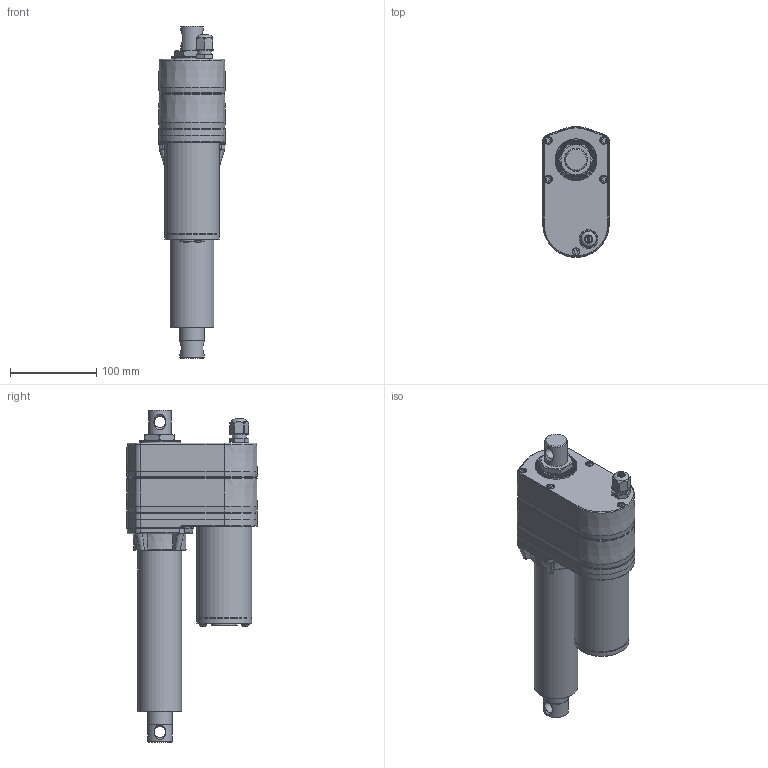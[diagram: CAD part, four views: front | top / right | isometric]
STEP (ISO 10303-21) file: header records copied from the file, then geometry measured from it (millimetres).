
FILE_DESCRIPTION (( 'STEP AP203' ), '1' );
FILE_NAME ('ID10II-A-With LT or LT+POT-102.STEP', '2014-06-10T00:53:57', ( '' ), ( '' ), 'SwSTEP 2.0', 'SolidWorks 2013', '' );
FILE_SCHEMA (( 'CONFIG_CONTROL_DESIGN' ));
Length unit declared in the file: millimetre
Products named in the file (3): ID10II-A-With LT or LT+POT-102-1; ID10II-A-With LT or LT+POT-102-2; ID10II-A-With LT or LT+POT-102
Assembly tree (2 placements, depth 2):
  ID10II-A-With LT or LT+POT-102
    ID10II-A-With LT or LT+POT-102-1
    ID10II-A-With LT or LT+POT-102-2
Bounding box: 77.15 x 151.65 x 384.7 mm (x, y, z)
Volume: 1912484.7 mm3; surface area: 159354 mm2
Topology: 2 solids, 2 shells, 838 faces, 2184 edges, 1391 vertices
Faces by surface type: plane 552, cylinder 154, torus 63, cone 45, bspline 22, sphere 2
Full cylindrical faces by diameter (mm): 0.05 x1, 1.6 x2, 7.2 x1, 8.5 x7, 9 x5, 13 x2, 15.75 x2, 21.6 x1, 26 x1, 28 x1, 28.1 x1, 28.6 x3, 30 x1, 48.2 x1, 50.8 x1, 63 x1, 63.5 x2
Entity records: 26723 total; most frequent: CARTESIAN_POINT 7849, ORIENTED_EDGE 4208, DIRECTION 3552, EDGE_CURVE 2104, VERTEX_POINT 1368, AXIS2_PLACEMENT_3D 1295, LINE 962, VECTOR 962
